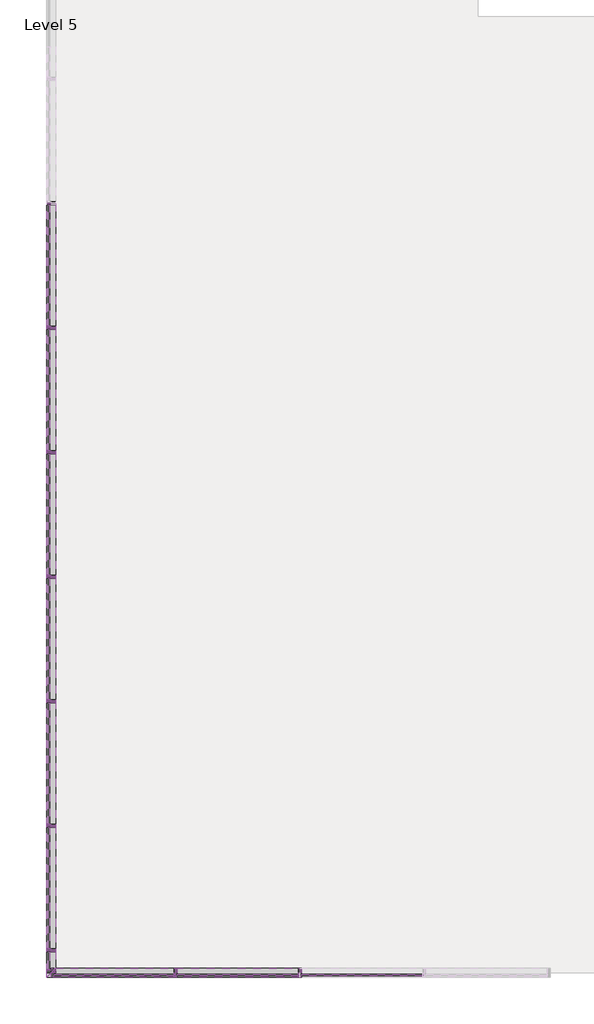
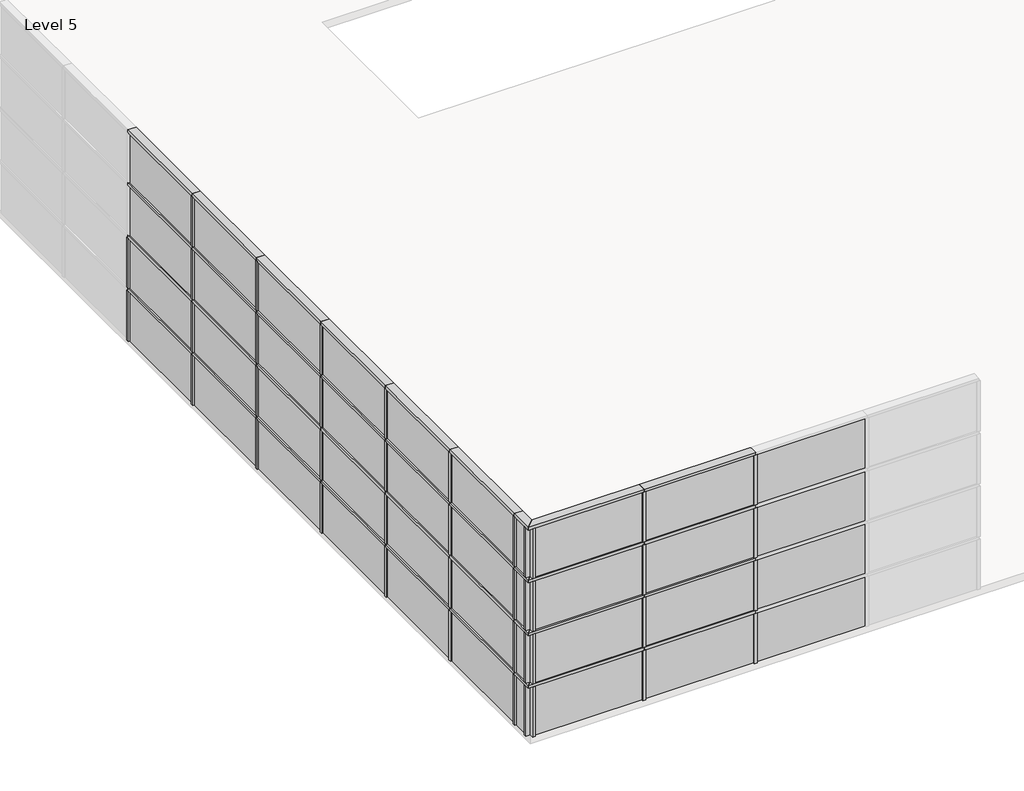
# One storey, part 1 of 5: 78 members, 40 plates.
"""IFC4 building model written with IfcOpenShell, lengths in millimetres."""

from ifc_helpers import new_model, si_unit, origin, place, context, project, spatial, transform, mapped, element, save
from components import rectangular_mullion_50_x_150mm_a053b0ca, rectangular_mullion_50_x_150mm_3a148f0f, rectangular_mullion_50_x_150mm_12a430f9, rectangular_mullion_50_x_150mm_cc09da6b, rectangular_mullion_50_x_150mm_947845bb, system_panel_glazed_751a585c, system_panel_glazed_08de6f5f, system_panel_glazed_9a47c754

model = new_model("IFC4")

# Units and contexts
model_context = context("Model", 3, world=origin())
ifc_project = project(units=[si_unit("LENGTHUNIT", "METRE", prefix="MILLI")], contexts=[model_context])

# Site, building, storey
site = spatial("IfcSite", under=ifc_project)
building = spatial("IfcBuilding", under=site)
storey = spatial("IfcBuildingStorey", under=building, Name="Level 5", Elevation=16000.0)

# Members
placement = place(None, origin())
rectangular_mullion_50_x_150mm_shape = rectangular_mullion_50_x_150mm_a053b0ca(model_context)
element("IfcMember", 1, ObjectType="Rectangular Mullion : 50 x 150mm", at=placement, inside=storey, context=model_context, shape_type="MappedRepresentation", body=[
    mapped(rectangular_mullion_50_x_150mm_shape, transform((-3587.173406, -21988.7417365, 16025.0), x_axis=(1.0, 0.0, 0.0), y_axis=(0.0, -1.0, 0.0), z_axis=(0.0, 0.0, -1.0))),
])
element("IfcMember", 2, ObjectType="Rectangular Mullion : 50 x 150mm", at=placement, inside=storey, context=model_context, shape_type="MappedRepresentation", body=[
    mapped(rectangular_mullion_50_x_150mm_shape, transform((-3587.173406, -21988.7417365, 17025.0), x_axis=(1.0, 0.0, 0.0), y_axis=(0.0, -1.0, 0.0), z_axis=(0.0, 0.0, -1.0))),
])
element("IfcMember", 3, ObjectType="Rectangular Mullion : 50 x 150mm", at=placement, inside=storey, context=model_context, shape_type="MappedRepresentation", body=[
    mapped(rectangular_mullion_50_x_150mm_shape, transform((-3587.173406, -21988.7417365, 18025.0), x_axis=(1.0, 0.0, 0.0), y_axis=(0.0, -1.0, 0.0), z_axis=(0.0, 0.0, -1.0))),
])
element("IfcMember", 4, ObjectType="Rectangular Mullion : 50 x 150mm", at=placement, inside=storey, context=model_context, shape_type="MappedRepresentation", body=[
    mapped(rectangular_mullion_50_x_150mm_shape, transform((-3587.173406, -21988.7417365, 19025.0), x_axis=(1.0, 0.0, 0.0), y_axis=(0.0, -1.0, 0.0), z_axis=(0.0, 0.0, -1.0))),
])
element("IfcMember", 5, ObjectType="Rectangular Mullion : 50 x 150mm", at=placement, inside=storey, context=model_context, shape_type="MappedRepresentation", body=[
    mapped(rectangular_mullion_50_x_150mm_shape, transform((-1587.173406, -21988.7417365, 16025.0), x_axis=(1.0, 0.0, 0.0), y_axis=(0.0, -1.0, 0.0), z_axis=(0.0, 0.0, -1.0))),
])
element("IfcMember", 6, ObjectType="Rectangular Mullion : 50 x 150mm", at=placement, inside=storey, context=model_context, shape_type="MappedRepresentation", body=[
    mapped(rectangular_mullion_50_x_150mm_shape, transform((-1587.173406, -21988.7417365, 17025.0), x_axis=(1.0, 0.0, 0.0), y_axis=(0.0, -1.0, 0.0), z_axis=(0.0, 0.0, -1.0))),
])
element("IfcMember", 7, ObjectType="Rectangular Mullion : 50 x 150mm", at=placement, inside=storey, context=model_context, shape_type="MappedRepresentation", body=[
    mapped(rectangular_mullion_50_x_150mm_shape, transform((-1587.173406, -21988.7417365, 18025.0), x_axis=(1.0, 0.0, 0.0), y_axis=(0.0, -1.0, 0.0), z_axis=(0.0, 0.0, -1.0))),
])
element("IfcMember", 8, ObjectType="Rectangular Mullion : 50 x 150mm", at=placement, inside=storey, context=model_context, shape_type="MappedRepresentation", body=[
    mapped(rectangular_mullion_50_x_150mm_shape, transform((-1587.173406, -21988.7417365, 19025.0), x_axis=(1.0, 0.0, 0.0), y_axis=(0.0, -1.0, 0.0), z_axis=(0.0, 0.0, -1.0))),
])
element("IfcMember", 9, ObjectType="Rectangular Mullion : 50 x 150mm", at=placement, inside=storey, context=model_context, shape_type="MappedRepresentation", body=[
    mapped(rectangular_mullion_50_x_150mm_shape, transform((-5587.173406, -9624.0160434, 16025.0), x_axis=(0.0, -1.0, 0.0), y_axis=(-1.0, 0.0, 0.0), z_axis=(0.0, 0.0, -1.0))),
])
element("IfcMember", 10, ObjectType="Rectangular Mullion : 50 x 150mm", at=placement, inside=storey, context=model_context, shape_type="MappedRepresentation", body=[
    mapped(rectangular_mullion_50_x_150mm_shape, transform((-5587.173406, -9624.0160434, 17025.0), x_axis=(0.0, -1.0, 0.0), y_axis=(-1.0, 0.0, 0.0), z_axis=(0.0, 0.0, -1.0))),
])
element("IfcMember", 11, ObjectType="Rectangular Mullion : 50 x 150mm", at=placement, inside=storey, context=model_context, shape_type="MappedRepresentation", body=[
    mapped(rectangular_mullion_50_x_150mm_shape, transform((-5587.173406, -11624.0160434, 16025.0), x_axis=(0.0, -1.0, 0.0), y_axis=(-1.0, 0.0, 0.0), z_axis=(0.0, 0.0, -1.0))),
])
element("IfcMember", 12, ObjectType="Rectangular Mullion : 50 x 150mm", at=placement, inside=storey, context=model_context, shape_type="MappedRepresentation", body=[
    mapped(rectangular_mullion_50_x_150mm_shape, transform((-5587.173406, -11624.0160434, 17025.0), x_axis=(0.0, -1.0, 0.0), y_axis=(-1.0, 0.0, 0.0), z_axis=(0.0, 0.0, -1.0))),
])
element("IfcMember", 13, ObjectType="Rectangular Mullion : 50 x 150mm", at=placement, inside=storey, context=model_context, shape_type="MappedRepresentation", body=[
    mapped(rectangular_mullion_50_x_150mm_shape, transform((-5587.173406, -11624.0160434, 18025.0), x_axis=(0.0, -1.0, 0.0), y_axis=(-1.0, 0.0, 0.0), z_axis=(0.0, 0.0, -1.0))),
])
element("IfcMember", 14, ObjectType="Rectangular Mullion : 50 x 150mm", at=placement, inside=storey, context=model_context, shape_type="MappedRepresentation", body=[
    mapped(rectangular_mullion_50_x_150mm_shape, transform((-5587.173406, -11624.0160434, 19025.0), x_axis=(0.0, -1.0, 0.0), y_axis=(-1.0, 0.0, 0.0), z_axis=(0.0, 0.0, -1.0))),
])
element("IfcMember", 15, ObjectType="Rectangular Mullion : 50 x 150mm", at=placement, inside=storey, context=model_context, shape_type="MappedRepresentation", body=[
    mapped(rectangular_mullion_50_x_150mm_shape, transform((-5587.173406, -13624.0160434, 16025.0), x_axis=(0.0, -1.0, 0.0), y_axis=(-1.0, 0.0, 0.0), z_axis=(0.0, 0.0, -1.0))),
])
element("IfcMember", 16, ObjectType="Rectangular Mullion : 50 x 150mm", at=placement, inside=storey, context=model_context, shape_type="MappedRepresentation", body=[
    mapped(rectangular_mullion_50_x_150mm_shape, transform((-5587.173406, -13624.0160434, 17025.0), x_axis=(0.0, -1.0, 0.0), y_axis=(-1.0, 0.0, 0.0), z_axis=(0.0, 0.0, -1.0))),
])
element("IfcMember", 17, ObjectType="Rectangular Mullion : 50 x 150mm", at=placement, inside=storey, context=model_context, shape_type="MappedRepresentation", body=[
    mapped(rectangular_mullion_50_x_150mm_shape, transform((-5587.173406, -13624.0160434, 18025.0), x_axis=(0.0, -1.0, 0.0), y_axis=(-1.0, 0.0, 0.0), z_axis=(0.0, 0.0, -1.0))),
])
element("IfcMember", 18, ObjectType="Rectangular Mullion : 50 x 150mm", at=placement, inside=storey, context=model_context, shape_type="MappedRepresentation", body=[
    mapped(rectangular_mullion_50_x_150mm_shape, transform((-5587.173406, -13624.0160434, 19025.0), x_axis=(0.0, -1.0, 0.0), y_axis=(-1.0, 0.0, 0.0), z_axis=(0.0, 0.0, -1.0))),
])
element("IfcMember", 19, ObjectType="Rectangular Mullion : 50 x 150mm", at=placement, inside=storey, context=model_context, shape_type="MappedRepresentation", body=[
    mapped(rectangular_mullion_50_x_150mm_shape, transform((-5587.173406, -15624.0160434, 16025.0), x_axis=(0.0, -1.0, 0.0), y_axis=(-1.0, 0.0, 0.0), z_axis=(0.0, 0.0, -1.0))),
])
element("IfcMember", 20, ObjectType="Rectangular Mullion : 50 x 150mm", at=placement, inside=storey, context=model_context, shape_type="MappedRepresentation", body=[
    mapped(rectangular_mullion_50_x_150mm_shape, transform((-5587.173406, -15624.0160434, 17025.0), x_axis=(0.0, -1.0, 0.0), y_axis=(-1.0, 0.0, 0.0), z_axis=(0.0, 0.0, -1.0))),
])
element("IfcMember", 21, ObjectType="Rectangular Mullion : 50 x 150mm", at=placement, inside=storey, context=model_context, shape_type="MappedRepresentation", body=[
    mapped(rectangular_mullion_50_x_150mm_shape, transform((-5587.173406, -15624.0160434, 18025.0), x_axis=(0.0, -1.0, 0.0), y_axis=(-1.0, 0.0, 0.0), z_axis=(0.0, 0.0, -1.0))),
])
element("IfcMember", 22, ObjectType="Rectangular Mullion : 50 x 150mm", at=placement, inside=storey, context=model_context, shape_type="MappedRepresentation", body=[
    mapped(rectangular_mullion_50_x_150mm_shape, transform((-5587.173406, -15624.0160434, 19025.0), x_axis=(0.0, -1.0, 0.0), y_axis=(-1.0, 0.0, 0.0), z_axis=(0.0, 0.0, -1.0))),
])
element("IfcMember", 23, ObjectType="Rectangular Mullion : 50 x 150mm", at=placement, inside=storey, context=model_context, shape_type="MappedRepresentation", body=[
    mapped(rectangular_mullion_50_x_150mm_shape, transform((-5587.173406, -17624.0160434, 16025.0), x_axis=(0.0, -1.0, 0.0), y_axis=(-1.0, 0.0, 0.0), z_axis=(0.0, 0.0, -1.0))),
])
element("IfcMember", 24, ObjectType="Rectangular Mullion : 50 x 150mm", at=placement, inside=storey, context=model_context, shape_type="MappedRepresentation", body=[
    mapped(rectangular_mullion_50_x_150mm_shape, transform((-5587.173406, -17624.0160434, 17025.0), x_axis=(0.0, -1.0, 0.0), y_axis=(-1.0, 0.0, 0.0), z_axis=(0.0, 0.0, -1.0))),
])
element("IfcMember", 25, ObjectType="Rectangular Mullion : 50 x 150mm", at=placement, inside=storey, context=model_context, shape_type="MappedRepresentation", body=[
    mapped(rectangular_mullion_50_x_150mm_shape, transform((-5587.173406, -17624.0160434, 18025.0), x_axis=(0.0, -1.0, 0.0), y_axis=(-1.0, 0.0, 0.0), z_axis=(0.0, 0.0, -1.0))),
])
element("IfcMember", 26, ObjectType="Rectangular Mullion : 50 x 150mm", at=placement, inside=storey, context=model_context, shape_type="MappedRepresentation", body=[
    mapped(rectangular_mullion_50_x_150mm_shape, transform((-5587.173406, -17624.0160434, 19025.0), x_axis=(0.0, -1.0, 0.0), y_axis=(-1.0, 0.0, 0.0), z_axis=(0.0, 0.0, -1.0))),
])
element("IfcMember", 27, ObjectType="Rectangular Mullion : 50 x 150mm", at=placement, inside=storey, context=model_context, shape_type="MappedRepresentation", body=[
    mapped(rectangular_mullion_50_x_150mm_shape, transform((-5587.173406, -19624.0160434, 16025.0), x_axis=(0.0, -1.0, 0.0), y_axis=(-1.0, 0.0, 0.0), z_axis=(0.0, 0.0, -1.0))),
])
element("IfcMember", 28, ObjectType="Rectangular Mullion : 50 x 150mm", at=placement, inside=storey, context=model_context, shape_type="MappedRepresentation", body=[
    mapped(rectangular_mullion_50_x_150mm_shape, transform((-5587.173406, -19624.0160434, 17025.0), x_axis=(0.0, -1.0, 0.0), y_axis=(-1.0, 0.0, 0.0), z_axis=(0.0, 0.0, -1.0))),
])
element("IfcMember", 29, ObjectType="Rectangular Mullion : 50 x 150mm", at=placement, inside=storey, context=model_context, shape_type="MappedRepresentation", body=[
    mapped(rectangular_mullion_50_x_150mm_shape, transform((-5587.173406, -19624.0160434, 18025.0), x_axis=(0.0, -1.0, 0.0), y_axis=(-1.0, 0.0, 0.0), z_axis=(0.0, 0.0, -1.0))),
])
element("IfcMember", 30, ObjectType="Rectangular Mullion : 50 x 150mm", at=placement, inside=storey, context=model_context, shape_type="MappedRepresentation", body=[
    mapped(rectangular_mullion_50_x_150mm_shape, transform((-5587.173406, -19624.0160434, 19025.0), x_axis=(0.0, -1.0, 0.0), y_axis=(-1.0, 0.0, 0.0), z_axis=(0.0, 0.0, -1.0))),
])
element("IfcMember", 31, ObjectType="Rectangular Mullion : 50 x 150mm", at=placement, inside=storey, context=model_context, shape_type="MappedRepresentation", body=[
    mapped(rectangular_mullion_50_x_150mm_shape, transform((-5587.173406, -21624.0160434, 16025.0), x_axis=(0.0, -1.0, 0.0), y_axis=(-1.0, 0.0, 0.0), z_axis=(0.0, 0.0, -1.0))),
])
element("IfcMember", 32, ObjectType="Rectangular Mullion : 50 x 150mm", at=placement, inside=storey, context=model_context, shape_type="MappedRepresentation", body=[
    mapped(rectangular_mullion_50_x_150mm_shape, transform((-5587.173406, -21624.0160434, 17025.0), x_axis=(0.0, -1.0, 0.0), y_axis=(-1.0, 0.0, 0.0), z_axis=(0.0, 0.0, -1.0))),
])
element("IfcMember", 33, ObjectType="Rectangular Mullion : 50 x 150mm", at=placement, inside=storey, context=model_context, shape_type="MappedRepresentation", body=[
    mapped(rectangular_mullion_50_x_150mm_shape, transform((-5587.173406, -21624.0160434, 18025.0), x_axis=(0.0, -1.0, 0.0), y_axis=(-1.0, 0.0, 0.0), z_axis=(0.0, 0.0, -1.0))),
])
element("IfcMember", 34, ObjectType="Rectangular Mullion : 50 x 150mm", at=placement, inside=storey, context=model_context, shape_type="MappedRepresentation", body=[
    mapped(rectangular_mullion_50_x_150mm_shape, transform((-5587.173406, -21624.0160434, 19025.0), x_axis=(0.0, -1.0, 0.0), y_axis=(-1.0, 0.0, 0.0), z_axis=(0.0, 0.0, -1.0))),
])
rectangular_mullion_50_x_150mm_2_shape = rectangular_mullion_50_x_150mm_3a148f0f(model_context)
element("IfcMember", 35, ObjectType="Rectangular Mullion : 50 x 150mm", at=placement, inside=storey, context=model_context, shape_type="MappedRepresentation", body=[
    mapped(rectangular_mullion_50_x_150mm_2_shape, transform((-1587.173406, -21988.7417365, 17000.0), x_axis=(0.0, 0.0, 1.0), y_axis=(0.0, -1.0, 0.0), z_axis=(1.0, 0.0, 0.0))),
])
element("IfcMember", 36, ObjectType="Rectangular Mullion : 50 x 150mm", at=placement, inside=storey, context=model_context, shape_type="MappedRepresentation", body=[
    mapped(rectangular_mullion_50_x_150mm_2_shape, transform((-1587.173406, -21988.7417365, 18000.0), x_axis=(0.0, 0.0, 1.0), y_axis=(0.0, -1.0, 0.0), z_axis=(1.0, 0.0, 0.0))),
])
element("IfcMember", 37, ObjectType="Rectangular Mullion : 50 x 150mm", at=placement, inside=storey, context=model_context, shape_type="MappedRepresentation", body=[
    mapped(rectangular_mullion_50_x_150mm_2_shape, transform((-1587.173406, -21988.7417365, 19000.0), x_axis=(0.0, 0.0, 1.0), y_axis=(0.0, -1.0, 0.0), z_axis=(1.0, 0.0, 0.0))),
])
element("IfcMember", 38, ObjectType="Rectangular Mullion : 50 x 150mm", at=placement, inside=storey, context=model_context, shape_type="MappedRepresentation", body=[
    mapped(rectangular_mullion_50_x_150mm_2_shape, transform((-1587.173406, -21988.7417365, 20000.0), x_axis=(0.0, 0.0, 1.0), y_axis=(0.0, -1.0, 0.0), z_axis=(1.0, 0.0, 0.0))),
])
element("IfcMember", 39, ObjectType="Rectangular Mullion : 50 x 150mm", at=placement, inside=storey, context=model_context, shape_type="MappedRepresentation", body=[
    mapped(rectangular_mullion_50_x_150mm_2_shape, transform((-5587.173406, -11624.0160434, 17000.0), x_axis=(0.0, 0.0, 1.0), y_axis=(-1.0, 0.0, 0.0), z_axis=(0.0, -1.0, 0.0))),
])
element("IfcMember", 40, ObjectType="Rectangular Mullion : 50 x 150mm", at=placement, inside=storey, context=model_context, shape_type="MappedRepresentation", body=[
    mapped(rectangular_mullion_50_x_150mm_2_shape, transform((-5587.173406, -13624.0160434, 17000.0), x_axis=(0.0, 0.0, 1.0), y_axis=(-1.0, 0.0, 0.0), z_axis=(0.0, -1.0, 0.0))),
])
element("IfcMember", 41, ObjectType="Rectangular Mullion : 50 x 150mm", at=placement, inside=storey, context=model_context, shape_type="MappedRepresentation", body=[
    mapped(rectangular_mullion_50_x_150mm_2_shape, transform((-5587.173406, -15624.0160434, 17000.0), x_axis=(0.0, 0.0, 1.0), y_axis=(-1.0, 0.0, 0.0), z_axis=(0.0, -1.0, 0.0))),
])
element("IfcMember", 42, ObjectType="Rectangular Mullion : 50 x 150mm", at=placement, inside=storey, context=model_context, shape_type="MappedRepresentation", body=[
    mapped(rectangular_mullion_50_x_150mm_2_shape, transform((-5587.173406, -17624.0160434, 17000.0), x_axis=(0.0, 0.0, 1.0), y_axis=(-1.0, 0.0, 0.0), z_axis=(0.0, -1.0, 0.0))),
])
element("IfcMember", 43, ObjectType="Rectangular Mullion : 50 x 150mm", at=placement, inside=storey, context=model_context, shape_type="MappedRepresentation", body=[
    mapped(rectangular_mullion_50_x_150mm_2_shape, transform((-5587.173406, -19624.0160434, 17000.0), x_axis=(0.0, 0.0, 1.0), y_axis=(-1.0, 0.0, 0.0), z_axis=(0.0, -1.0, 0.0))),
])
element("IfcMember", 44, ObjectType="Rectangular Mullion : 50 x 150mm", at=placement, inside=storey, context=model_context, shape_type="MappedRepresentation", body=[
    mapped(rectangular_mullion_50_x_150mm_2_shape, transform((-5587.173406, -21624.0160434, 17000.0), x_axis=(0.0, 0.0, 1.0), y_axis=(-1.0, 0.0, 0.0), z_axis=(0.0, -1.0, 0.0))),
])
element("IfcMember", 45, ObjectType="Rectangular Mullion : 50 x 150mm", at=placement, inside=storey, context=model_context, shape_type="MappedRepresentation", body=[
    mapped(rectangular_mullion_50_x_150mm_2_shape, transform((-5587.173406, -11624.0160434, 18000.0), x_axis=(0.0, 0.0, 1.0), y_axis=(-1.0, 0.0, 0.0), z_axis=(0.0, -1.0, 0.0))),
])
element("IfcMember", 46, ObjectType="Rectangular Mullion : 50 x 150mm", at=placement, inside=storey, context=model_context, shape_type="MappedRepresentation", body=[
    mapped(rectangular_mullion_50_x_150mm_2_shape, transform((-5587.173406, -13624.0160434, 18000.0), x_axis=(0.0, 0.0, 1.0), y_axis=(-1.0, 0.0, 0.0), z_axis=(0.0, -1.0, 0.0))),
])
element("IfcMember", 47, ObjectType="Rectangular Mullion : 50 x 150mm", at=placement, inside=storey, context=model_context, shape_type="MappedRepresentation", body=[
    mapped(rectangular_mullion_50_x_150mm_2_shape, transform((-5587.173406, -15624.0160434, 18000.0), x_axis=(0.0, 0.0, 1.0), y_axis=(-1.0, 0.0, 0.0), z_axis=(0.0, -1.0, 0.0))),
])
element("IfcMember", 48, ObjectType="Rectangular Mullion : 50 x 150mm", at=placement, inside=storey, context=model_context, shape_type="MappedRepresentation", body=[
    mapped(rectangular_mullion_50_x_150mm_2_shape, transform((-5587.173406, -17624.0160434, 18000.0), x_axis=(0.0, 0.0, 1.0), y_axis=(-1.0, 0.0, 0.0), z_axis=(0.0, -1.0, 0.0))),
])
element("IfcMember", 49, ObjectType="Rectangular Mullion : 50 x 150mm", at=placement, inside=storey, context=model_context, shape_type="MappedRepresentation", body=[
    mapped(rectangular_mullion_50_x_150mm_2_shape, transform((-5587.173406, -19624.0160434, 18000.0), x_axis=(0.0, 0.0, 1.0), y_axis=(-1.0, 0.0, 0.0), z_axis=(0.0, -1.0, 0.0))),
])
element("IfcMember", 50, ObjectType="Rectangular Mullion : 50 x 150mm", at=placement, inside=storey, context=model_context, shape_type="MappedRepresentation", body=[
    mapped(rectangular_mullion_50_x_150mm_2_shape, transform((-5587.173406, -21624.0160434, 18000.0), x_axis=(0.0, 0.0, 1.0), y_axis=(-1.0, 0.0, 0.0), z_axis=(0.0, -1.0, 0.0))),
])
element("IfcMember", 51, ObjectType="Rectangular Mullion : 50 x 150mm", at=placement, inside=storey, context=model_context, shape_type="MappedRepresentation", body=[
    mapped(rectangular_mullion_50_x_150mm_2_shape, transform((-5587.173406, -11624.0160434, 19000.0), x_axis=(0.0, 0.0, 1.0), y_axis=(-1.0, 0.0, 0.0), z_axis=(0.0, -1.0, 0.0))),
])
element("IfcMember", 52, ObjectType="Rectangular Mullion : 50 x 150mm", at=placement, inside=storey, context=model_context, shape_type="MappedRepresentation", body=[
    mapped(rectangular_mullion_50_x_150mm_2_shape, transform((-5587.173406, -13624.0160434, 19000.0), x_axis=(0.0, 0.0, 1.0), y_axis=(-1.0, 0.0, 0.0), z_axis=(0.0, -1.0, 0.0))),
])
element("IfcMember", 53, ObjectType="Rectangular Mullion : 50 x 150mm", at=placement, inside=storey, context=model_context, shape_type="MappedRepresentation", body=[
    mapped(rectangular_mullion_50_x_150mm_2_shape, transform((-5587.173406, -15624.0160434, 19000.0), x_axis=(0.0, 0.0, 1.0), y_axis=(-1.0, 0.0, 0.0), z_axis=(0.0, -1.0, 0.0))),
])
element("IfcMember", 54, ObjectType="Rectangular Mullion : 50 x 150mm", at=placement, inside=storey, context=model_context, shape_type="MappedRepresentation", body=[
    mapped(rectangular_mullion_50_x_150mm_2_shape, transform((-5587.173406, -17624.0160434, 19000.0), x_axis=(0.0, 0.0, 1.0), y_axis=(-1.0, 0.0, 0.0), z_axis=(0.0, -1.0, 0.0))),
])
element("IfcMember", 55, ObjectType="Rectangular Mullion : 50 x 150mm", at=placement, inside=storey, context=model_context, shape_type="MappedRepresentation", body=[
    mapped(rectangular_mullion_50_x_150mm_2_shape, transform((-5587.173406, -19624.0160434, 19000.0), x_axis=(0.0, 0.0, 1.0), y_axis=(-1.0, 0.0, 0.0), z_axis=(0.0, -1.0, 0.0))),
])
element("IfcMember", 56, ObjectType="Rectangular Mullion : 50 x 150mm", at=placement, inside=storey, context=model_context, shape_type="MappedRepresentation", body=[
    mapped(rectangular_mullion_50_x_150mm_2_shape, transform((-5587.173406, -21624.0160434, 19000.0), x_axis=(0.0, 0.0, 1.0), y_axis=(-1.0, 0.0, 0.0), z_axis=(0.0, -1.0, 0.0))),
])
element("IfcMember", 57, ObjectType="Rectangular Mullion : 50 x 150mm", at=placement, inside=storey, context=model_context, shape_type="MappedRepresentation", body=[
    mapped(rectangular_mullion_50_x_150mm_2_shape, transform((-5587.173406, -11624.0160434, 20000.0), x_axis=(0.0, 0.0, 1.0), y_axis=(-1.0, 0.0, 0.0), z_axis=(0.0, -1.0, 0.0))),
])
element("IfcMember", 58, ObjectType="Rectangular Mullion : 50 x 150mm", at=placement, inside=storey, context=model_context, shape_type="MappedRepresentation", body=[
    mapped(rectangular_mullion_50_x_150mm_2_shape, transform((-5587.173406, -13624.0160434, 20000.0), x_axis=(0.0, 0.0, 1.0), y_axis=(-1.0, 0.0, 0.0), z_axis=(0.0, -1.0, 0.0))),
])
element("IfcMember", 59, ObjectType="Rectangular Mullion : 50 x 150mm", at=placement, inside=storey, context=model_context, shape_type="MappedRepresentation", body=[
    mapped(rectangular_mullion_50_x_150mm_2_shape, transform((-5587.173406, -15624.0160434, 20000.0), x_axis=(0.0, 0.0, 1.0), y_axis=(-1.0, 0.0, 0.0), z_axis=(0.0, -1.0, 0.0))),
])
element("IfcMember", 60, ObjectType="Rectangular Mullion : 50 x 150mm", at=placement, inside=storey, context=model_context, shape_type="MappedRepresentation", body=[
    mapped(rectangular_mullion_50_x_150mm_2_shape, transform((-5587.173406, -17624.0160434, 20000.0), x_axis=(0.0, 0.0, 1.0), y_axis=(-1.0, 0.0, 0.0), z_axis=(0.0, -1.0, 0.0))),
])
element("IfcMember", 61, ObjectType="Rectangular Mullion : 50 x 150mm", at=placement, inside=storey, context=model_context, shape_type="MappedRepresentation", body=[
    mapped(rectangular_mullion_50_x_150mm_2_shape, transform((-5587.173406, -19624.0160434, 20000.0), x_axis=(0.0, 0.0, 1.0), y_axis=(-1.0, 0.0, 0.0), z_axis=(0.0, -1.0, 0.0))),
])
element("IfcMember", 62, ObjectType="Rectangular Mullion : 50 x 150mm", at=placement, inside=storey, context=model_context, shape_type="MappedRepresentation", body=[
    mapped(rectangular_mullion_50_x_150mm_2_shape, transform((-5587.173406, -21624.0160434, 20000.0), x_axis=(0.0, 0.0, 1.0), y_axis=(-1.0, 0.0, 0.0), z_axis=(0.0, -1.0, 0.0))),
])
rectangular_mullion_50_x_150mm_3_shape = rectangular_mullion_50_x_150mm_12a430f9(model_context)
element("IfcMember", 63, ObjectType="Rectangular Mullion : 50 x 150mm", at=placement, inside=storey, context=model_context, shape_type="MappedRepresentation", body=[
    mapped(rectangular_mullion_50_x_150mm_3_shape, transform((-5587.173406, -21988.7417365, 16975.0), x_axis=(-1.0, 0.0, 0.0), y_axis=(0.0, -1.0, 0.0), z_axis=(0.0, 0.0, 1.0))),
])
element("IfcMember", 64, ObjectType="Rectangular Mullion : 50 x 150mm", at=placement, inside=storey, context=model_context, shape_type="MappedRepresentation", body=[
    mapped(rectangular_mullion_50_x_150mm_3_shape, transform((-5587.173406, -21988.7417365, 17975.0), x_axis=(-1.0, 0.0, 0.0), y_axis=(0.0, -1.0, 0.0), z_axis=(0.0, 0.0, 1.0))),
])
element("IfcMember", 65, ObjectType="Rectangular Mullion : 50 x 150mm", at=placement, inside=storey, context=model_context, shape_type="MappedRepresentation", body=[
    mapped(rectangular_mullion_50_x_150mm_3_shape, transform((-5587.173406, -21988.7417365, 18975.0), x_axis=(-1.0, 0.0, 0.0), y_axis=(0.0, -1.0, 0.0), z_axis=(0.0, 0.0, 1.0))),
])
element("IfcMember", 66, ObjectType="Rectangular Mullion : 50 x 150mm", at=placement, inside=storey, context=model_context, shape_type="MappedRepresentation", body=[
    mapped(rectangular_mullion_50_x_150mm_3_shape, transform((-5587.173406, -21988.7417365, 19975.0), x_axis=(-1.0, 0.0, 0.0), y_axis=(0.0, -1.0, 0.0), z_axis=(0.0, 0.0, 1.0))),
])
element("IfcMember", 67, ObjectType="Rectangular Mullion : 50 x 150mm", at=placement, inside=storey, context=model_context, shape_type="MappedRepresentation", body=[
    mapped(rectangular_mullion_50_x_150mm_3_shape, transform((-5587.173406, -21988.7417365, 16025.0), x_axis=(0.0, -1.0, 0.0), y_axis=(-1.0, 0.0, 0.0), z_axis=(0.0, 0.0, -1.0))),
])
element("IfcMember", 68, ObjectType="Rectangular Mullion : 50 x 150mm", at=placement, inside=storey, context=model_context, shape_type="MappedRepresentation", body=[
    mapped(rectangular_mullion_50_x_150mm_3_shape, transform((-5587.173406, -21988.7417365, 17025.0), x_axis=(0.0, -1.0, 0.0), y_axis=(-1.0, 0.0, 0.0), z_axis=(0.0, 0.0, -1.0))),
])
element("IfcMember", 69, ObjectType="Rectangular Mullion : 50 x 150mm", at=placement, inside=storey, context=model_context, shape_type="MappedRepresentation", body=[
    mapped(rectangular_mullion_50_x_150mm_3_shape, transform((-5587.173406, -21988.7417365, 18025.0), x_axis=(0.0, -1.0, 0.0), y_axis=(-1.0, 0.0, 0.0), z_axis=(0.0, 0.0, -1.0))),
])
element("IfcMember", 70, ObjectType="Rectangular Mullion : 50 x 150mm", at=placement, inside=storey, context=model_context, shape_type="MappedRepresentation", body=[
    mapped(rectangular_mullion_50_x_150mm_3_shape, transform((-5587.173406, -21988.7417365, 19025.0), x_axis=(0.0, -1.0, 0.0), y_axis=(-1.0, 0.0, 0.0), z_axis=(0.0, 0.0, -1.0))),
])
rectangular_mullion_50_x_150mm_4_shape = rectangular_mullion_50_x_150mm_cc09da6b(model_context)
element("IfcMember", 71, ObjectType="Rectangular Mullion : 50 x 150mm", at=placement, inside=storey, context=model_context, shape_type="MappedRepresentation", body=[
    mapped(rectangular_mullion_50_x_150mm_4_shape, transform((-5587.173406, -21988.7417365, 17000.0), x_axis=(0.0, 0.0, 1.0), y_axis=(-1.0, 0.0, 0.0), z_axis=(0.0, -1.0, 0.0))),
])
element("IfcMember", 72, ObjectType="Rectangular Mullion : 50 x 150mm", at=placement, inside=storey, context=model_context, shape_type="MappedRepresentation", body=[
    mapped(rectangular_mullion_50_x_150mm_4_shape, transform((-5587.173406, -21988.7417365, 18000.0), x_axis=(0.0, 0.0, 1.0), y_axis=(-1.0, 0.0, 0.0), z_axis=(0.0, -1.0, 0.0))),
])
element("IfcMember", 73, ObjectType="Rectangular Mullion : 50 x 150mm", at=placement, inside=storey, context=model_context, shape_type="MappedRepresentation", body=[
    mapped(rectangular_mullion_50_x_150mm_4_shape, transform((-5587.173406, -21988.7417365, 19000.0), x_axis=(0.0, 0.0, 1.0), y_axis=(-1.0, 0.0, 0.0), z_axis=(0.0, -1.0, 0.0))),
])
element("IfcMember", 74, ObjectType="Rectangular Mullion : 50 x 150mm", at=placement, inside=storey, context=model_context, shape_type="MappedRepresentation", body=[
    mapped(rectangular_mullion_50_x_150mm_4_shape, transform((-5587.173406, -21988.7417365, 20000.0), x_axis=(0.0, 0.0, 1.0), y_axis=(-1.0, 0.0, 0.0), z_axis=(0.0, -1.0, 0.0))),
])
rectangular_mullion_50_x_150mm_5_shape = rectangular_mullion_50_x_150mm_947845bb(model_context)
element("IfcMember", 75, ObjectType="Rectangular Mullion : 50 x 150mm", at=placement, inside=storey, context=model_context, shape_type="MappedRepresentation", body=[
    mapped(rectangular_mullion_50_x_150mm_5_shape, transform((-3587.173406, -21988.7417365, 17000.0), x_axis=(0.0, 0.0, 1.0), y_axis=(0.0, -1.0, 0.0), z_axis=(1.0, 0.0, 0.0))),
])
element("IfcMember", 76, ObjectType="Rectangular Mullion : 50 x 150mm", at=placement, inside=storey, context=model_context, shape_type="MappedRepresentation", body=[
    mapped(rectangular_mullion_50_x_150mm_5_shape, transform((-3587.173406, -21988.7417365, 18000.0), x_axis=(0.0, 0.0, 1.0), y_axis=(0.0, -1.0, 0.0), z_axis=(1.0, 0.0, 0.0))),
])
element("IfcMember", 77, ObjectType="Rectangular Mullion : 50 x 150mm", at=placement, inside=storey, context=model_context, shape_type="MappedRepresentation", body=[
    mapped(rectangular_mullion_50_x_150mm_5_shape, transform((-3587.173406, -21988.7417365, 19000.0), x_axis=(0.0, 0.0, 1.0), y_axis=(0.0, -1.0, 0.0), z_axis=(1.0, 0.0, 0.0))),
])
element("IfcMember", 78, ObjectType="Rectangular Mullion : 50 x 150mm", at=placement, inside=storey, context=model_context, shape_type="MappedRepresentation", body=[
    mapped(rectangular_mullion_50_x_150mm_5_shape, transform((-3587.173406, -21988.7417365, 20000.0), x_axis=(0.0, 0.0, 1.0), y_axis=(0.0, -1.0, 0.0), z_axis=(1.0, 0.0, 0.0))),
])

# Plates
system_panel_glazed_shape = system_panel_glazed_751a585c(model_context)
element("IfcPlate", 79, ObjectType="System Panel : Glazed", at=placement, inside=storey, context=model_context, shape_type="MappedRepresentation", body=[
    mapped(system_panel_glazed_shape, transform((-5537.173406, -21988.7417365, 16500.0), x_axis=(0.0, 0.0, 1.0), y_axis=(0.0, -1.0, 0.0), z_axis=(1.0, 0.0, 0.0))),
])
element("IfcPlate", 80, ObjectType="System Panel : Glazed", at=placement, inside=storey, context=model_context, shape_type="MappedRepresentation", body=[
    mapped(system_panel_glazed_shape, transform((-5537.173406, -21988.7417365, 17500.0), x_axis=(0.0, 0.0, 1.0), y_axis=(0.0, -1.0, 0.0), z_axis=(1.0, 0.0, 0.0))),
])
element("IfcPlate", 81, ObjectType="System Panel : Glazed", at=placement, inside=storey, context=model_context, shape_type="MappedRepresentation", body=[
    mapped(system_panel_glazed_shape, transform((-5537.173406, -21988.7417365, 18500.0), x_axis=(0.0, 0.0, 1.0), y_axis=(0.0, -1.0, 0.0), z_axis=(1.0, 0.0, 0.0))),
])
element("IfcPlate", 82, ObjectType="System Panel : Glazed", at=placement, inside=storey, context=model_context, shape_type="MappedRepresentation", body=[
    mapped(system_panel_glazed_shape, transform((-5537.173406, -21988.7417365, 19500.0), x_axis=(0.0, 0.0, 1.0), y_axis=(0.0, -1.0, 0.0), z_axis=(1.0, 0.0, 0.0))),
])
system_panel_glazed_2_shape = system_panel_glazed_08de6f5f(model_context)
element("IfcPlate", 83, ObjectType="System Panel : Glazed", at=placement, inside=storey, context=model_context, shape_type="MappedRepresentation", body=[
    mapped(system_panel_glazed_2_shape, transform((-5587.173406, -9649.0160434, 16500.0), x_axis=(0.0, 0.0, 1.0), y_axis=(-1.0, 0.0, 0.0), z_axis=(0.0, -1.0, 0.0))),
])
element("IfcPlate", 84, ObjectType="System Panel : Glazed", at=placement, inside=storey, context=model_context, shape_type="MappedRepresentation", body=[
    mapped(system_panel_glazed_2_shape, transform((-5587.173406, -11649.0160434, 16500.0), x_axis=(0.0, 0.0, 1.0), y_axis=(-1.0, 0.0, 0.0), z_axis=(0.0, -1.0, 0.0))),
])
element("IfcPlate", 85, ObjectType="System Panel : Glazed", at=placement, inside=storey, context=model_context, shape_type="MappedRepresentation", body=[
    mapped(system_panel_glazed_2_shape, transform((-5587.173406, -13649.0160434, 16500.0), x_axis=(0.0, 0.0, 1.0), y_axis=(-1.0, 0.0, 0.0), z_axis=(0.0, -1.0, 0.0))),
])
element("IfcPlate", 86, ObjectType="System Panel : Glazed", at=placement, inside=storey, context=model_context, shape_type="MappedRepresentation", body=[
    mapped(system_panel_glazed_2_shape, transform((-5587.173406, -15649.0160434, 16500.0), x_axis=(0.0, 0.0, 1.0), y_axis=(-1.0, 0.0, 0.0), z_axis=(0.0, -1.0, 0.0))),
])
element("IfcPlate", 87, ObjectType="System Panel : Glazed", at=placement, inside=storey, context=model_context, shape_type="MappedRepresentation", body=[
    mapped(system_panel_glazed_2_shape, transform((-5587.173406, -17649.0160434, 16500.0), x_axis=(0.0, 0.0, 1.0), y_axis=(-1.0, 0.0, 0.0), z_axis=(0.0, -1.0, 0.0))),
])
element("IfcPlate", 88, ObjectType="System Panel : Glazed", at=placement, inside=storey, context=model_context, shape_type="MappedRepresentation", body=[
    mapped(system_panel_glazed_2_shape, transform((-5587.173406, -19649.0160434, 16500.0), x_axis=(0.0, 0.0, 1.0), y_axis=(-1.0, 0.0, 0.0), z_axis=(0.0, -1.0, 0.0))),
])
element("IfcPlate", 89, ObjectType="System Panel : Glazed", at=placement, inside=storey, context=model_context, shape_type="MappedRepresentation", body=[
    mapped(system_panel_glazed_2_shape, transform((-5587.173406, -9649.0160434, 17500.0), x_axis=(0.0, 0.0, 1.0), y_axis=(-1.0, 0.0, 0.0), z_axis=(0.0, -1.0, 0.0))),
])
element("IfcPlate", 90, ObjectType="System Panel : Glazed", at=placement, inside=storey, context=model_context, shape_type="MappedRepresentation", body=[
    mapped(system_panel_glazed_2_shape, transform((-5587.173406, -11649.0160434, 17500.0), x_axis=(0.0, 0.0, 1.0), y_axis=(-1.0, 0.0, 0.0), z_axis=(0.0, -1.0, 0.0))),
])
element("IfcPlate", 91, ObjectType="System Panel : Glazed", at=placement, inside=storey, context=model_context, shape_type="MappedRepresentation", body=[
    mapped(system_panel_glazed_2_shape, transform((-5587.173406, -13649.0160434, 17500.0), x_axis=(0.0, 0.0, 1.0), y_axis=(-1.0, 0.0, 0.0), z_axis=(0.0, -1.0, 0.0))),
])
element("IfcPlate", 92, ObjectType="System Panel : Glazed", at=placement, inside=storey, context=model_context, shape_type="MappedRepresentation", body=[
    mapped(system_panel_glazed_2_shape, transform((-5587.173406, -15649.0160434, 17500.0), x_axis=(0.0, 0.0, 1.0), y_axis=(-1.0, 0.0, 0.0), z_axis=(0.0, -1.0, 0.0))),
])
element("IfcPlate", 93, ObjectType="System Panel : Glazed", at=placement, inside=storey, context=model_context, shape_type="MappedRepresentation", body=[
    mapped(system_panel_glazed_2_shape, transform((-5587.173406, -17649.0160434, 17500.0), x_axis=(0.0, 0.0, 1.0), y_axis=(-1.0, 0.0, 0.0), z_axis=(0.0, -1.0, 0.0))),
])
element("IfcPlate", 94, ObjectType="System Panel : Glazed", at=placement, inside=storey, context=model_context, shape_type="MappedRepresentation", body=[
    mapped(system_panel_glazed_2_shape, transform((-5587.173406, -19649.0160434, 17500.0), x_axis=(0.0, 0.0, 1.0), y_axis=(-1.0, 0.0, 0.0), z_axis=(0.0, -1.0, 0.0))),
])
element("IfcPlate", 95, ObjectType="System Panel : Glazed", at=placement, inside=storey, context=model_context, shape_type="MappedRepresentation", body=[
    mapped(system_panel_glazed_2_shape, transform((-5587.173406, -9649.0160434, 18500.0), x_axis=(0.0, 0.0, 1.0), y_axis=(-1.0, 0.0, 0.0), z_axis=(0.0, -1.0, 0.0))),
])
element("IfcPlate", 96, ObjectType="System Panel : Glazed", at=placement, inside=storey, context=model_context, shape_type="MappedRepresentation", body=[
    mapped(system_panel_glazed_2_shape, transform((-5587.173406, -11649.0160434, 18500.0), x_axis=(0.0, 0.0, 1.0), y_axis=(-1.0, 0.0, 0.0), z_axis=(0.0, -1.0, 0.0))),
])
element("IfcPlate", 97, ObjectType="System Panel : Glazed", at=placement, inside=storey, context=model_context, shape_type="MappedRepresentation", body=[
    mapped(system_panel_glazed_2_shape, transform((-5587.173406, -13649.0160434, 18500.0), x_axis=(0.0, 0.0, 1.0), y_axis=(-1.0, 0.0, 0.0), z_axis=(0.0, -1.0, 0.0))),
])
element("IfcPlate", 98, ObjectType="System Panel : Glazed", at=placement, inside=storey, context=model_context, shape_type="MappedRepresentation", body=[
    mapped(system_panel_glazed_2_shape, transform((-5587.173406, -15649.0160434, 18500.0), x_axis=(0.0, 0.0, 1.0), y_axis=(-1.0, 0.0, 0.0), z_axis=(0.0, -1.0, 0.0))),
])
element("IfcPlate", 99, ObjectType="System Panel : Glazed", at=placement, inside=storey, context=model_context, shape_type="MappedRepresentation", body=[
    mapped(system_panel_glazed_2_shape, transform((-5587.173406, -17649.0160434, 18500.0), x_axis=(0.0, 0.0, 1.0), y_axis=(-1.0, 0.0, 0.0), z_axis=(0.0, -1.0, 0.0))),
])
element("IfcPlate", 100, ObjectType="System Panel : Glazed", at=placement, inside=storey, context=model_context, shape_type="MappedRepresentation", body=[
    mapped(system_panel_glazed_2_shape, transform((-5587.173406, -19649.0160434, 18500.0), x_axis=(0.0, 0.0, 1.0), y_axis=(-1.0, 0.0, 0.0), z_axis=(0.0, -1.0, 0.0))),
])
element("IfcPlate", 101, ObjectType="System Panel : Glazed", at=placement, inside=storey, context=model_context, shape_type="MappedRepresentation", body=[
    mapped(system_panel_glazed_2_shape, transform((-5587.173406, -9649.0160434, 19500.0), x_axis=(0.0, 0.0, 1.0), y_axis=(-1.0, 0.0, 0.0), z_axis=(0.0, -1.0, 0.0))),
])
element("IfcPlate", 102, ObjectType="System Panel : Glazed", at=placement, inside=storey, context=model_context, shape_type="MappedRepresentation", body=[
    mapped(system_panel_glazed_2_shape, transform((-5587.173406, -11649.0160434, 19500.0), x_axis=(0.0, 0.0, 1.0), y_axis=(-1.0, 0.0, 0.0), z_axis=(0.0, -1.0, 0.0))),
])
element("IfcPlate", 103, ObjectType="System Panel : Glazed", at=placement, inside=storey, context=model_context, shape_type="MappedRepresentation", body=[
    mapped(system_panel_glazed_2_shape, transform((-5587.173406, -13649.0160434, 19500.0), x_axis=(0.0, 0.0, 1.0), y_axis=(-1.0, 0.0, 0.0), z_axis=(0.0, -1.0, 0.0))),
])
element("IfcPlate", 104, ObjectType="System Panel : Glazed", at=placement, inside=storey, context=model_context, shape_type="MappedRepresentation", body=[
    mapped(system_panel_glazed_2_shape, transform((-5587.173406, -15649.0160434, 19500.0), x_axis=(0.0, 0.0, 1.0), y_axis=(-1.0, 0.0, 0.0), z_axis=(0.0, -1.0, 0.0))),
])
element("IfcPlate", 105, ObjectType="System Panel : Glazed", at=placement, inside=storey, context=model_context, shape_type="MappedRepresentation", body=[
    mapped(system_panel_glazed_2_shape, transform((-5587.173406, -17649.0160434, 19500.0), x_axis=(0.0, 0.0, 1.0), y_axis=(-1.0, 0.0, 0.0), z_axis=(0.0, -1.0, 0.0))),
])
element("IfcPlate", 106, ObjectType="System Panel : Glazed", at=placement, inside=storey, context=model_context, shape_type="MappedRepresentation", body=[
    mapped(system_panel_glazed_2_shape, transform((-5587.173406, -19649.0160434, 19500.0), x_axis=(0.0, 0.0, 1.0), y_axis=(-1.0, 0.0, 0.0), z_axis=(0.0, -1.0, 0.0))),
])
element("IfcPlate", 107, ObjectType="System Panel : Glazed", at=placement, inside=storey, context=model_context, shape_type="MappedRepresentation", body=[
    mapped(system_panel_glazed_2_shape, transform((-3562.173406, -21988.7417365, 16500.0), x_axis=(0.0, 0.0, 1.0), y_axis=(0.0, -1.0, 0.0), z_axis=(1.0, 0.0, 0.0))),
])
element("IfcPlate", 108, ObjectType="System Panel : Glazed", at=placement, inside=storey, context=model_context, shape_type="MappedRepresentation", body=[
    mapped(system_panel_glazed_2_shape, transform((-1562.173406, -21988.7417365, 16500.0), x_axis=(0.0, 0.0, 1.0), y_axis=(0.0, -1.0, 0.0), z_axis=(1.0, 0.0, 0.0))),
])
element("IfcPlate", 109, ObjectType="System Panel : Glazed", at=placement, inside=storey, context=model_context, shape_type="MappedRepresentation", body=[
    mapped(system_panel_glazed_2_shape, transform((-3562.173406, -21988.7417365, 17500.0), x_axis=(0.0, 0.0, 1.0), y_axis=(0.0, -1.0, 0.0), z_axis=(1.0, 0.0, 0.0))),
])
element("IfcPlate", 110, ObjectType="System Panel : Glazed", at=placement, inside=storey, context=model_context, shape_type="MappedRepresentation", body=[
    mapped(system_panel_glazed_2_shape, transform((-1562.173406, -21988.7417365, 17500.0), x_axis=(0.0, 0.0, 1.0), y_axis=(0.0, -1.0, 0.0), z_axis=(1.0, 0.0, 0.0))),
])
element("IfcPlate", 111, ObjectType="System Panel : Glazed", at=placement, inside=storey, context=model_context, shape_type="MappedRepresentation", body=[
    mapped(system_panel_glazed_2_shape, transform((-3562.173406, -21988.7417365, 18500.0), x_axis=(0.0, 0.0, 1.0), y_axis=(0.0, -1.0, 0.0), z_axis=(1.0, 0.0, 0.0))),
])
element("IfcPlate", 112, ObjectType="System Panel : Glazed", at=placement, inside=storey, context=model_context, shape_type="MappedRepresentation", body=[
    mapped(system_panel_glazed_2_shape, transform((-1562.173406, -21988.7417365, 18500.0), x_axis=(0.0, 0.0, 1.0), y_axis=(0.0, -1.0, 0.0), z_axis=(1.0, 0.0, 0.0))),
])
element("IfcPlate", 113, ObjectType="System Panel : Glazed", at=placement, inside=storey, context=model_context, shape_type="MappedRepresentation", body=[
    mapped(system_panel_glazed_2_shape, transform((-3562.173406, -21988.7417365, 19500.0), x_axis=(0.0, 0.0, 1.0), y_axis=(0.0, -1.0, 0.0), z_axis=(1.0, 0.0, 0.0))),
])
element("IfcPlate", 114, ObjectType="System Panel : Glazed", at=placement, inside=storey, context=model_context, shape_type="MappedRepresentation", body=[
    mapped(system_panel_glazed_2_shape, transform((-1562.173406, -21988.7417365, 19500.0), x_axis=(0.0, 0.0, 1.0), y_axis=(0.0, -1.0, 0.0), z_axis=(1.0, 0.0, 0.0))),
])
system_panel_glazed_3_shape = system_panel_glazed_9a47c754(model_context)
element("IfcPlate", 115, ObjectType="System Panel : Glazed", at=placement, inside=storey, context=model_context, shape_type="MappedRepresentation", body=[
    mapped(system_panel_glazed_3_shape, transform((-5587.173406, -21649.0160434, 16500.0), x_axis=(0.0, 0.0, 1.0), y_axis=(-1.0, 0.0, 0.0), z_axis=(0.0, -1.0, 0.0))),
])
element("IfcPlate", 116, ObjectType="System Panel : Glazed", at=placement, inside=storey, context=model_context, shape_type="MappedRepresentation", body=[
    mapped(system_panel_glazed_3_shape, transform((-5587.173406, -21649.0160434, 17500.0), x_axis=(0.0, 0.0, 1.0), y_axis=(-1.0, 0.0, 0.0), z_axis=(0.0, -1.0, 0.0))),
])
element("IfcPlate", 117, ObjectType="System Panel : Glazed", at=placement, inside=storey, context=model_context, shape_type="MappedRepresentation", body=[
    mapped(system_panel_glazed_3_shape, transform((-5587.173406, -21649.0160434, 18500.0), x_axis=(0.0, 0.0, 1.0), y_axis=(-1.0, 0.0, 0.0), z_axis=(0.0, -1.0, 0.0))),
])
element("IfcPlate", 118, ObjectType="System Panel : Glazed", at=placement, inside=storey, context=model_context, shape_type="MappedRepresentation", body=[
    mapped(system_panel_glazed_3_shape, transform((-5587.173406, -21649.0160434, 19500.0), x_axis=(0.0, 0.0, 1.0), y_axis=(-1.0, 0.0, 0.0), z_axis=(0.0, -1.0, 0.0))),
])

save(model, "model.ifc")
